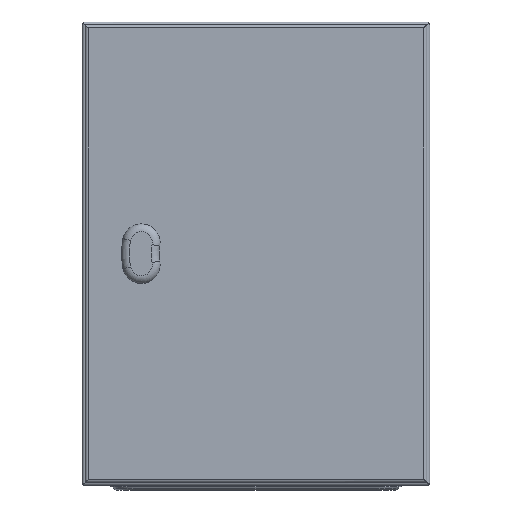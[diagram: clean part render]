
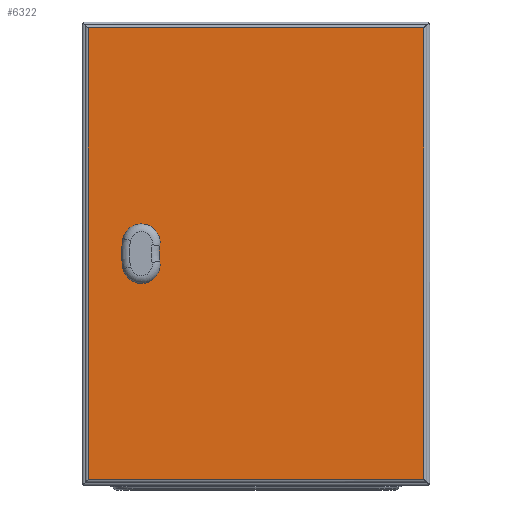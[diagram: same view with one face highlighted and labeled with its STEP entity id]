
A CAD part, front view. The second image highlights one B-rep face of the part: STEP entity #6322.
In plain terms, the highlighted planar face has unit normal (0, -1, 0).
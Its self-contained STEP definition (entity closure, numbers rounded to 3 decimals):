
#498=LINE('',#10309,#898);
#499=LINE('',#10312,#899);
#500=LINE('',#10314,#900);
#501=LINE('',#10316,#901);
#898=VECTOR('',#8268,1000.);
#899=VECTOR('',#8269,1000.);
#900=VECTOR('',#8270,1000.);
#901=VECTOR('',#8271,1000.);
#1720=ORIENTED_EDGE('',*,*,#3130,.F.);
#1721=ORIENTED_EDGE('',*,*,#3131,.T.);
#1722=ORIENTED_EDGE('',*,*,#3132,.T.);
#1723=ORIENTED_EDGE('',*,*,#3133,.T.);
#1724=ORIENTED_EDGE('',*,*,#3134,.F.);
#1725=ORIENTED_EDGE('',*,*,#3135,.F.);
#1726=ORIENTED_EDGE('',*,*,#3136,.T.);
#1727=ORIENTED_EDGE('',*,*,#3137,.T.);
#3130=EDGE_CURVE('',#3884,#3885,#4364,.T.);
#3131=EDGE_CURVE('',#3884,#3886,#4365,.T.);
#3132=EDGE_CURVE('',#3886,#3887,#4366,.T.);
#3133=EDGE_CURVE('',#3887,#3885,#4367,.T.);
#3134=EDGE_CURVE('',#3888,#3889,#498,.F.);
#3135=EDGE_CURVE('',#3890,#3888,#499,.T.);
#3136=EDGE_CURVE('',#3890,#3891,#500,.F.);
#3137=EDGE_CURVE('',#3891,#3889,#501,.T.);
#3884=VERTEX_POINT('',#10302);
#3885=VERTEX_POINT('',#10303);
#3886=VERTEX_POINT('',#10305);
#3887=VERTEX_POINT('',#10307);
#3888=VERTEX_POINT('',#10310);
#3889=VERTEX_POINT('',#10311);
#3890=VERTEX_POINT('',#10313);
#3891=VERTEX_POINT('',#10315);
#4364=CIRCLE('',#6938,34.3);
#4365=CIRCLE('',#6939,16.2);
#4366=CIRCLE('',#6940,60.7);
#4367=CIRCLE('',#6941,16.2);
#4868=EDGE_LOOP('',(#1720,#1721,#1722,#1723));
#4869=EDGE_LOOP('',(#1724,#1725,#1726,#1727));
#5560=FACE_BOUND('',#4868,.T.);
#5561=FACE_BOUND('',#4869,.T.);
#6084=PLANE('',#6937);
#6322=ADVANCED_FACE('',(#5560,#5561),#6084,.F.);
#6937=AXIS2_PLACEMENT_3D('',#10300,#8258,#8259);
#6938=AXIS2_PLACEMENT_3D('',#10301,#8260,#8261);
#6939=AXIS2_PLACEMENT_3D('',#10304,#8262,#8263);
#6940=AXIS2_PLACEMENT_3D('',#10306,#8264,#8265);
#6941=AXIS2_PLACEMENT_3D('',#10308,#8266,#8267);
#8258=DIRECTION('',(0.,1.,0.));
#8259=DIRECTION('',(0.,0.,1.));
#8260=DIRECTION('',(0.,1.,0.));
#8261=DIRECTION('',(1.,0.,0.));
#8262=DIRECTION('',(0.,1.,0.));
#8263=DIRECTION('',(1.,0.,0.));
#8264=DIRECTION('',(0.,1.,0.));
#8265=DIRECTION('',(1.,0.,0.));
#8266=DIRECTION('',(0.,1.,0.));
#8267=DIRECTION('',(1.,0.,0.));
#8268=DIRECTION('',(0.,0.,-1.));
#8269=DIRECTION('',(-1.,0.,0.));
#8270=DIRECTION('',(0.,0.,-1.));
#8271=DIRECTION('',(-1.,0.,0.));
#10300=CARTESIAN_POINT('',(0.,-16.5,0.));
#10301=CARTESIAN_POINT('',(-49.402,-16.5,0.));
#10302=CARTESIAN_POINT('',(-83.089,-16.5,-6.452));
#10303=CARTESIAN_POINT('',(-83.089,-16.5,6.452));
#10304=CARTESIAN_POINT('',(-99.,-16.5,-9.5));
#10305=CARTESIAN_POINT('',(-114.827,-16.5,-12.958));
#10306=CARTESIAN_POINT('',(-55.526,-16.5,0.));
#10307=CARTESIAN_POINT('',(-114.827,-16.5,12.958));
#10308=CARTESIAN_POINT('',(-99.,-16.5,9.5));
#10309=CARTESIAN_POINT('',(-145.,-16.5,200.));
#10310=CARTESIAN_POINT('',(-145.,-16.5,-195.));
#10311=CARTESIAN_POINT('',(-145.,-16.5,195.));
#10312=CARTESIAN_POINT('',(150.,-16.5,-195.));
#10313=CARTESIAN_POINT('',(145.,-16.5,-195.));
#10314=CARTESIAN_POINT('',(145.,-16.5,200.));
#10315=CARTESIAN_POINT('',(145.,-16.5,195.));
#10316=CARTESIAN_POINT('',(150.,-16.5,195.));
